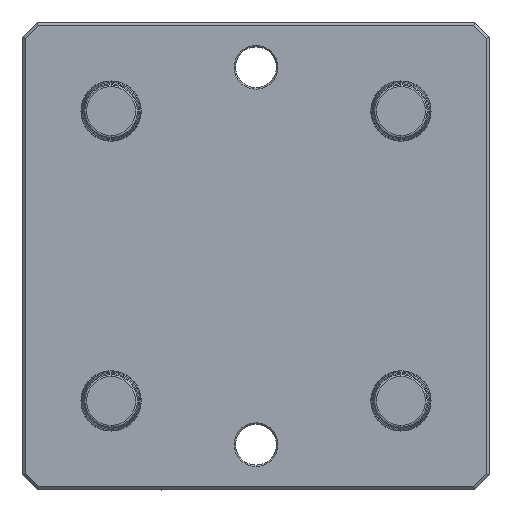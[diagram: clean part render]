
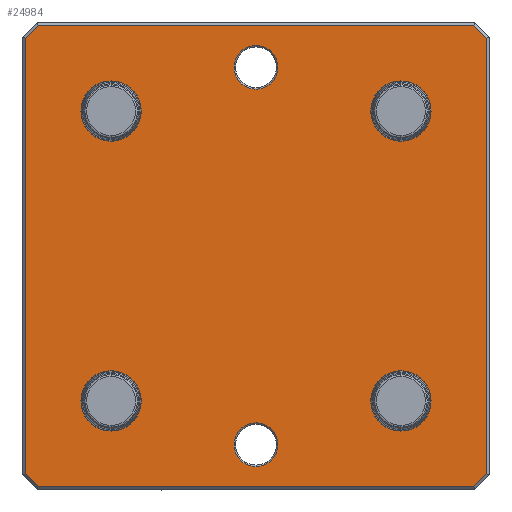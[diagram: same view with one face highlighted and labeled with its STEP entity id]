
A CAD part, front view. The second image highlights one B-rep face of the part: STEP entity #24984.
In plain terms, the highlighted planar face has unit normal (0, -1, 0).
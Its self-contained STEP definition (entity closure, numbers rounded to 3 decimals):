
#2058=DIRECTION('',(0.,0.,-1.));
#2059=VECTOR('',#2058,144.172);
#2060=CARTESIAN_POINT('',(76.5,0.,72.086));
#2061=LINE('',#2060,#2059);
#2062=DIRECTION('',(-0.707,0.,-0.707));
#2063=VECTOR('',#2062,6.243);
#2064=CARTESIAN_POINT('',(76.5,0.,-72.086));
#2065=LINE('',#2064,#2063);
#2066=DIRECTION('',(-1.,0.,0.));
#2067=VECTOR('',#2066,144.172);
#2068=CARTESIAN_POINT('',(72.086,0.,-76.5));
#2069=LINE('',#2068,#2067);
#2070=DIRECTION('',(-0.707,0.,0.707));
#2071=VECTOR('',#2070,6.243);
#2072=CARTESIAN_POINT('',(-72.086,0.,-76.5));
#2073=LINE('',#2072,#2071);
#2074=DIRECTION('',(0.,0.,1.));
#2075=VECTOR('',#2074,144.172);
#2076=CARTESIAN_POINT('',(-76.5,0.,-72.086));
#2077=LINE('',#2076,#2075);
#2078=DIRECTION('',(0.707,0.,0.707));
#2079=VECTOR('',#2078,6.243);
#2080=CARTESIAN_POINT('',(-76.5,0.,72.086));
#2081=LINE('',#2080,#2079);
#2082=DIRECTION('',(1.,0.,0.));
#2083=VECTOR('',#2082,144.172);
#2084=CARTESIAN_POINT('',(-72.086,0.,76.5));
#2085=LINE('',#2084,#2083);
#2086=DIRECTION('',(0.707,0.,-0.707));
#2087=VECTOR('',#2086,6.243);
#2088=CARTESIAN_POINT('',(72.086,0.,76.5));
#2089=LINE('',#2088,#2087);
#2090=CARTESIAN_POINT('',(-48.,0.,48.));
#2091=DIRECTION('',(0.,-1.,0.));
#2092=DIRECTION('',(0.,0.,1.));
#2093=AXIS2_PLACEMENT_3D('',#2090,#2091,#2092);
#2095=CARTESIAN_POINT('',(-48.,0.,48.));
#2096=DIRECTION('',(0.,-1.,0.));
#2097=DIRECTION('',(0.,0.,-1.));
#2098=AXIS2_PLACEMENT_3D('',#2095,#2096,#2097);
#2100=CARTESIAN_POINT('',(-48.,0.,-48.));
#2101=DIRECTION('',(0.,-1.,0.));
#2102=DIRECTION('',(0.,0.,1.));
#2103=AXIS2_PLACEMENT_3D('',#2100,#2101,#2102);
#2105=CARTESIAN_POINT('',(-48.,0.,-48.));
#2106=DIRECTION('',(0.,-1.,0.));
#2107=DIRECTION('',(0.,0.,-1.));
#2108=AXIS2_PLACEMENT_3D('',#2105,#2106,#2107);
#2110=CARTESIAN_POINT('',(48.,0.,-48.));
#2111=DIRECTION('',(0.,-1.,0.));
#2112=DIRECTION('',(0.,0.,1.));
#2113=AXIS2_PLACEMENT_3D('',#2110,#2111,#2112);
#2115=CARTESIAN_POINT('',(48.,0.,-48.));
#2116=DIRECTION('',(0.,-1.,0.));
#2117=DIRECTION('',(0.,0.,-1.));
#2118=AXIS2_PLACEMENT_3D('',#2115,#2116,#2117);
#2120=CARTESIAN_POINT('',(48.,0.,48.));
#2121=DIRECTION('',(0.,-1.,0.));
#2122=DIRECTION('',(0.,0.,1.));
#2123=AXIS2_PLACEMENT_3D('',#2120,#2121,#2122);
#2125=CARTESIAN_POINT('',(48.,0.,48.));
#2126=DIRECTION('',(0.,-1.,0.));
#2127=DIRECTION('',(0.,0.,-1.));
#2128=AXIS2_PLACEMENT_3D('',#2125,#2126,#2127);
#2130=CARTESIAN_POINT('',(0.,0.,-62.5));
#2131=DIRECTION('',(0.,-1.,0.));
#2132=DIRECTION('',(1.,0.,0.));
#2133=AXIS2_PLACEMENT_3D('',#2130,#2131,#2132);
#2135=CARTESIAN_POINT('',(0.,0.,-62.5));
#2136=DIRECTION('',(0.,-1.,0.));
#2137=DIRECTION('',(0.,0.,1.));
#2138=AXIS2_PLACEMENT_3D('',#2135,#2136,#2137);
#2140=CARTESIAN_POINT('',(0.,0.,-62.5));
#2141=DIRECTION('',(0.,-1.,0.));
#2142=DIRECTION('',(-1.,0.,0.));
#2143=AXIS2_PLACEMENT_3D('',#2140,#2141,#2142);
#2145=CARTESIAN_POINT('',(0.,0.,-62.5));
#2146=DIRECTION('',(0.,-1.,0.));
#2147=DIRECTION('',(0.,0.,-1.));
#2148=AXIS2_PLACEMENT_3D('',#2145,#2146,#2147);
#2150=CARTESIAN_POINT('',(0.,0.,62.5));
#2151=DIRECTION('',(0.,-1.,0.));
#2152=DIRECTION('',(1.,0.,0.));
#2153=AXIS2_PLACEMENT_3D('',#2150,#2151,#2152);
#2155=CARTESIAN_POINT('',(0.,0.,62.5));
#2156=DIRECTION('',(0.,-1.,0.));
#2157=DIRECTION('',(0.,0.,1.));
#2158=AXIS2_PLACEMENT_3D('',#2155,#2156,#2157);
#2160=CARTESIAN_POINT('',(0.,0.,62.5));
#2161=DIRECTION('',(0.,-1.,0.));
#2162=DIRECTION('',(-1.,0.,0.));
#2163=AXIS2_PLACEMENT_3D('',#2160,#2161,#2162);
#2165=CARTESIAN_POINT('',(0.,0.,62.5));
#2166=DIRECTION('',(0.,-1.,0.));
#2167=DIRECTION('',(0.,0.,-1.));
#2168=AXIS2_PLACEMENT_3D('',#2165,#2166,#2167);
#21248=CARTESIAN_POINT('',(76.5,0.,-72.086));
#21249=CARTESIAN_POINT('',(72.086,0.,-76.5));
#21250=VERTEX_POINT('',#21248);
#21251=VERTEX_POINT('',#21249);
#21252=CARTESIAN_POINT('',(76.5,0.,72.086));
#21253=VERTEX_POINT('',#21252);
#21254=CARTESIAN_POINT('',(-72.086,0.,-76.5));
#21255=VERTEX_POINT('',#21254);
#21256=CARTESIAN_POINT('',(-76.5,0.,-72.086));
#21257=VERTEX_POINT('',#21256);
#21258=CARTESIAN_POINT('',(-76.5,0.,72.086));
#21259=VERTEX_POINT('',#21258);
#21260=CARTESIAN_POINT('',(-72.086,0.,76.5));
#21261=VERTEX_POINT('',#21260);
#21262=CARTESIAN_POINT('',(72.086,0.,76.5));
#21263=VERTEX_POINT('',#21262);
#21264=CARTESIAN_POINT('',(-48.,0.,56.5));
#21265=CARTESIAN_POINT('',(-48.,0.,39.5));
#21266=VERTEX_POINT('',#21264);
#21267=VERTEX_POINT('',#21265);
#21268=CARTESIAN_POINT('',(-48.,0.,-39.5));
#21269=CARTESIAN_POINT('',(-48.,0.,-56.5));
#21270=VERTEX_POINT('',#21268);
#21271=VERTEX_POINT('',#21269);
#21272=CARTESIAN_POINT('',(48.,0.,-39.5));
#21273=CARTESIAN_POINT('',(48.,0.,-56.5));
#21274=VERTEX_POINT('',#21272);
#21275=VERTEX_POINT('',#21273);
#21276=CARTESIAN_POINT('',(48.,0.,56.5));
#21277=CARTESIAN_POINT('',(48.,0.,39.5));
#21278=VERTEX_POINT('',#21276);
#21279=VERTEX_POINT('',#21277);
#21280=CARTESIAN_POINT('',(0.,0.,-55.25));
#21281=CARTESIAN_POINT('',(-7.25,0.,-62.5));
#21282=VERTEX_POINT('',#21280);
#21283=VERTEX_POINT('',#21281);
#21284=CARTESIAN_POINT('',(7.25,0.,-62.5));
#21285=VERTEX_POINT('',#21284);
#21286=CARTESIAN_POINT('',(0.,0.,-69.75));
#21287=VERTEX_POINT('',#21286);
#21288=CARTESIAN_POINT('',(0.,0.,69.75));
#21289=CARTESIAN_POINT('',(-7.25,0.,62.5));
#21290=VERTEX_POINT('',#21288);
#21291=VERTEX_POINT('',#21289);
#21292=CARTESIAN_POINT('',(7.25,0.,62.5));
#21293=VERTEX_POINT('',#21292);
#21294=CARTESIAN_POINT('',(0.,0.,55.25));
#21295=VERTEX_POINT('',#21294);
#24920=CARTESIAN_POINT('',(0.,0.,0.));
#24921=DIRECTION('',(0.,1.,0.));
#24922=DIRECTION('',(1.,0.,0.));
#24923=AXIS2_PLACEMENT_3D('',#24920,#24921,#24922);
#24924=PLANE('',#24923);
#24926=ORIENTED_EDGE('',*,*,#24925,.T.);
#24928=ORIENTED_EDGE('',*,*,#24927,.T.);
#24930=ORIENTED_EDGE('',*,*,#24929,.T.);
#24931=ORIENTED_EDGE('',*,*,#24884,.T.);
#24932=ORIENTED_EDGE('',*,*,#24899,.T.);
#24933=ORIENTED_EDGE('',*,*,#24910,.T.);
#24935=ORIENTED_EDGE('',*,*,#24934,.T.);
#24937=ORIENTED_EDGE('',*,*,#24936,.T.);
#24938=EDGE_LOOP('',(#24926,#24928,#24930,#24931,#24932,#24933,#24935,#24937));
#24939=FACE_OUTER_BOUND('',#24938,.F.);
#24941=ORIENTED_EDGE('',*,*,#24940,.T.);
#24943=ORIENTED_EDGE('',*,*,#24942,.T.);
#24944=EDGE_LOOP('',(#24941,#24943));
#24945=FACE_BOUND('',#24944,.F.);
#24947=ORIENTED_EDGE('',*,*,#24946,.T.);
#24949=ORIENTED_EDGE('',*,*,#24948,.T.);
#24950=EDGE_LOOP('',(#24947,#24949));
#24951=FACE_BOUND('',#24950,.F.);
#24953=ORIENTED_EDGE('',*,*,#24952,.T.);
#24955=ORIENTED_EDGE('',*,*,#24954,.T.);
#24956=EDGE_LOOP('',(#24953,#24955));
#24957=FACE_BOUND('',#24956,.F.);
#24959=ORIENTED_EDGE('',*,*,#24958,.T.);
#24961=ORIENTED_EDGE('',*,*,#24960,.T.);
#24962=EDGE_LOOP('',(#24959,#24961));
#24963=FACE_BOUND('',#24962,.F.);
#24965=ORIENTED_EDGE('',*,*,#24964,.T.);
#24967=ORIENTED_EDGE('',*,*,#24966,.T.);
#24969=ORIENTED_EDGE('',*,*,#24968,.T.);
#24971=ORIENTED_EDGE('',*,*,#24970,.T.);
#24972=EDGE_LOOP('',(#24965,#24967,#24969,#24971));
#24973=FACE_BOUND('',#24972,.F.);
#24975=ORIENTED_EDGE('',*,*,#24974,.T.);
#24977=ORIENTED_EDGE('',*,*,#24976,.T.);
#24979=ORIENTED_EDGE('',*,*,#24978,.T.);
#24981=ORIENTED_EDGE('',*,*,#24980,.T.);
#24982=EDGE_LOOP('',(#24975,#24977,#24979,#24981));
#24983=FACE_BOUND('',#24982,.F.);
#24984=ADVANCED_FACE('',(#24939,#24945,#24951,#24957,#24963,#24973,#24983),
#24924,.F.);
#2094=CIRCLE('',#2093,8.5);
#2099=CIRCLE('',#2098,8.5);
#2104=CIRCLE('',#2103,8.5);
#2109=CIRCLE('',#2108,8.5);
#2114=CIRCLE('',#2113,8.5);
#2119=CIRCLE('',#2118,8.5);
#2124=CIRCLE('',#2123,8.5);
#2129=CIRCLE('',#2128,8.5);
#2134=CIRCLE('',#2133,7.25);
#2139=CIRCLE('',#2138,7.25);
#2144=CIRCLE('',#2143,7.25);
#2149=CIRCLE('',#2148,7.25);
#2154=CIRCLE('',#2153,7.25);
#2159=CIRCLE('',#2158,7.25);
#2164=CIRCLE('',#2163,7.25);
#2169=CIRCLE('',#2168,7.25);
#24884=EDGE_CURVE('',#21255,#21257,#2073,.T.);
#24899=EDGE_CURVE('',#21257,#21259,#2077,.T.);
#24910=EDGE_CURVE('',#21259,#21261,#2081,.T.);
#24925=EDGE_CURVE('',#21253,#21250,#2061,.T.);
#24927=EDGE_CURVE('',#21250,#21251,#2065,.T.);
#24929=EDGE_CURVE('',#21251,#21255,#2069,.T.);
#24934=EDGE_CURVE('',#21261,#21263,#2085,.T.);
#24936=EDGE_CURVE('',#21263,#21253,#2089,.T.);
#24940=EDGE_CURVE('',#21266,#21267,#2094,.T.);
#24942=EDGE_CURVE('',#21267,#21266,#2099,.T.);
#24946=EDGE_CURVE('',#21270,#21271,#2104,.T.);
#24948=EDGE_CURVE('',#21271,#21270,#2109,.T.);
#24952=EDGE_CURVE('',#21274,#21275,#2114,.T.);
#24954=EDGE_CURVE('',#21275,#21274,#2119,.T.);
#24958=EDGE_CURVE('',#21278,#21279,#2124,.T.);
#24960=EDGE_CURVE('',#21279,#21278,#2129,.T.);
#24964=EDGE_CURVE('',#21285,#21282,#2134,.T.);
#24966=EDGE_CURVE('',#21282,#21283,#2139,.T.);
#24968=EDGE_CURVE('',#21283,#21287,#2144,.T.);
#24970=EDGE_CURVE('',#21287,#21285,#2149,.T.);
#24974=EDGE_CURVE('',#21293,#21290,#2154,.T.);
#24976=EDGE_CURVE('',#21290,#21291,#2159,.T.);
#24978=EDGE_CURVE('',#21291,#21295,#2164,.T.);
#24980=EDGE_CURVE('',#21295,#21293,#2169,.T.);
